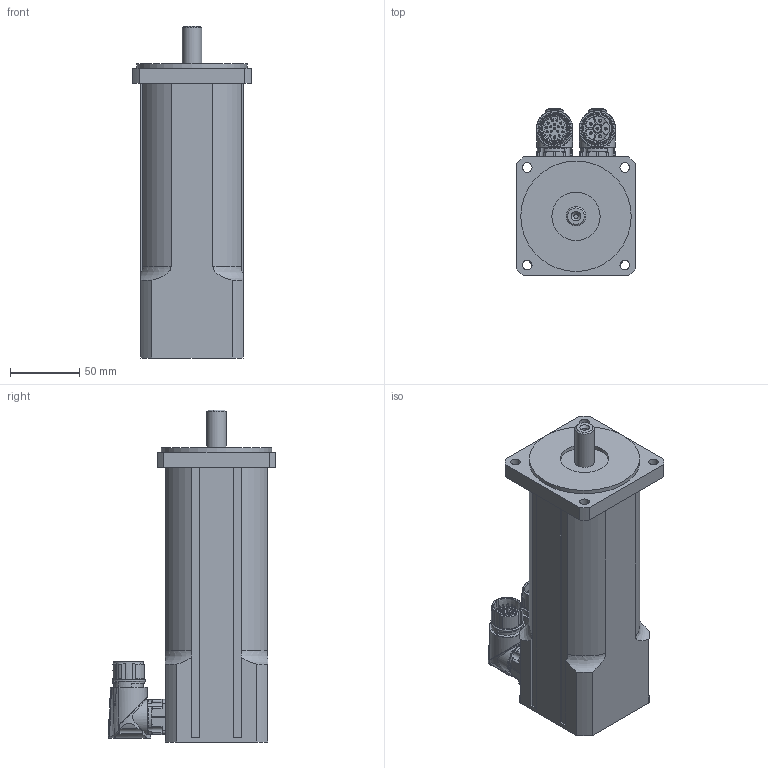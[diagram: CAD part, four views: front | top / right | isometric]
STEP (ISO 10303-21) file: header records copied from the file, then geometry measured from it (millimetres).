
FILE_DESCRIPTION((''),'2;1');
FILE_NAME('MR6338-Ux-Nxx-G01-A0D-MS-P0.stp','2012-03-29T12:28:42',(''),(''),'Autodesk Inventor 2012','Autodesk Inventor 2012','');
FILE_SCHEMA(('AUTOMOTIVE_DESIGN { 1 0 10303 214 1 1 1 1 }'));
Length unit declared in the file: millimetre
Products named in the file (4): MR6338_Ux_Nxx_G01_A0D_MS_P0; MR6338_G01_A0D_MS_P0; ot_mot; ot_res
Assembly tree (3 placements, depth 2):
  MR6338_Ux_Nxx_G01_A0D_MS_P0
    MR6338_G01_A0D_MS_P0
    ot_mot
    ot_res
Bounding box: 86 x 121.55 x 240.5 mm (x, y, z)
Volume: 1137431.2 mm3; surface area: 94490.8 mm2
Topology: 3 solids, 5 shells, 724 faces, 1928 edges, 1275 vertices
Faces by surface type: cylinder 271, plane 244, bspline 110, cone 49, torus 29, sphere 21
Full cylindrical faces by diameter (mm): 1 x15, 1.013 x1, 1.035 x1, 2 x6, 2.15 x6, 2.7 x8, 3.242 x1, 4.5 x2, 5.5 x1, 5.9 x2, 7 x4, 14 x1, 20 x4, 20.1 x3, 21.15 x4, 21.6 x2, 21.8 x2, 21.9 x2, 24.4 x2, 35 x1, 80 x1
Entity records: 26910 total; most frequent: CARTESIAN_POINT 9918, ORIENTED_EDGE 3530, DIRECTION 3324, EDGE_CURVE 1765, AXIS2_PLACEMENT_3D 1329, VERTEX_POINT 1234, EDGE_LOOP 935, FACE_OUTER_BOUND 724
